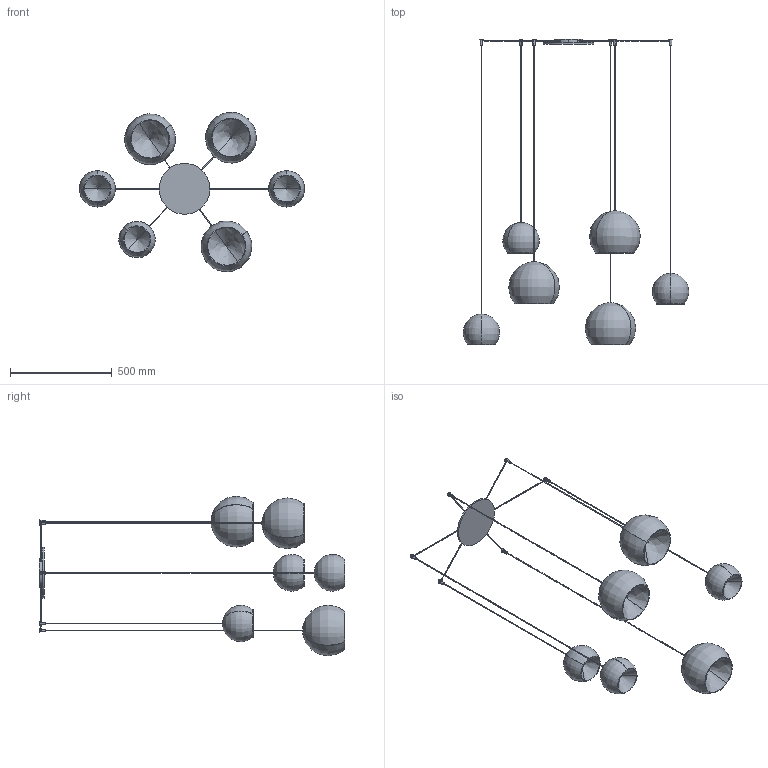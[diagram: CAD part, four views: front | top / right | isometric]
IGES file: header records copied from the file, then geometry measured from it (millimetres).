
Start section: SolidWorks IGES file using analytic representation for surfaces
Global section: file name: Y:\eforma\TECNICO\SOLIDWORKS\E-FORMA\09-LAMPADE\CHERRY MIX\02 parts\CRMA4-00-CHERRY MIX_6 sospensione.IGS; native system: SolidWorks 2022; preprocessor: SolidWorks 2022; author: eforma.tech; date: 250506.094017; units: millimetre
Bounding box: 1107.94 x 1500 x 783.15 mm (x, y, z)
Volume: 2466489.8 mm3; surface area: 2067806.9 mm2
Topology: 31 solids, 31 shells, 229 faces, 484 edges, 306 vertices
Faces by surface type: revolution 154, plane 75
